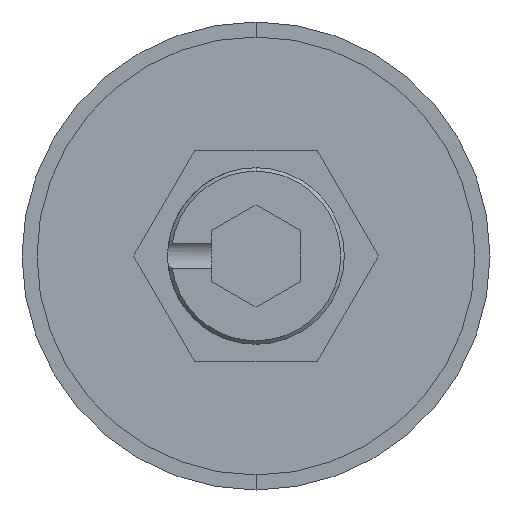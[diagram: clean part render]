
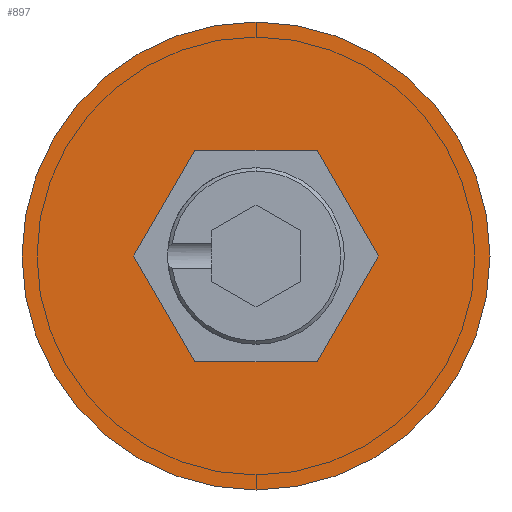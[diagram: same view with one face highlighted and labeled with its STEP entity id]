
A CAD part, front view. The second image highlights one B-rep face of the part: STEP entity #897.
In plain terms, the highlighted planar face has unit normal (0, -1, 0).
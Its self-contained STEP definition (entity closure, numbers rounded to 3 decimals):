
#96 = LINE ( 'NONE', #1774, #962 ) ;
#104 = ORIENTED_EDGE ( 'NONE', *, *, #1110, .F. ) ;
#110 = DIRECTION ( 'NONE',  ( 0., -1., 0. ) ) ;
#123 = ORIENTED_EDGE ( 'NONE', *, *, #2116, .F. ) ;
#134 = EDGE_LOOP ( 'NONE', ( #1092, #296 ) ) ;
#144 = VERTEX_POINT ( 'NONE', #2075 ) ;
#196 = EDGE_CURVE ( 'NONE', #1644, #1663, #2042, .T. ) ;
#206 = CARTESIAN_POINT ( 'NONE',  ( -3.464, 0., 6. ) ) ;
#244 = AXIS2_PLACEMENT_3D ( 'NONE', #1146, #1106, #609 ) ;
#282 = CARTESIAN_POINT ( 'NONE',  ( 0., 0., 0. ) ) ;
#285 = DIRECTION ( 'NONE',  ( 0., 0., -1. ) ) ;
#296 = ORIENTED_EDGE ( 'NONE', *, *, #1707, .T. ) ;
#315 = VERTEX_POINT ( 'NONE', #888 ) ;
#447 = CARTESIAN_POINT ( 'NONE',  ( 0., 0., 0. ) ) ;
#477 = DIRECTION ( 'NONE',  ( 0.5, 0., 0.866 ) ) ;
#517 = FACE_BOUND ( 'NONE', #1890, .T. ) ;
#580 = VERTEX_POINT ( 'NONE', #206 ) ;
#609 = DIRECTION ( 'NONE',  ( 0., 0., -1. ) ) ;
#697 = AXIS2_PLACEMENT_3D ( 'NONE', #447, #965, #285 ) ;
#701 = CARTESIAN_POINT ( 'NONE',  ( 0., 0., 13.25 ) ) ;
#772 = VECTOR ( 'NONE', #1083, 1000. ) ;
#790 = CIRCLE ( 'NONE', #1631, 13.25 ) ;
#794 = CARTESIAN_POINT ( 'NONE',  ( -3.464, 0., -6. ) ) ;
#803 = CARTESIAN_POINT ( 'NONE',  ( 3.464, 0., -6. ) ) ;
#822 = EDGE_CURVE ( 'NONE', #1790, #580, #2061, .T. ) ;
#871 = ORIENTED_EDGE ( 'NONE', *, *, #2014, .F. ) ;
#888 = CARTESIAN_POINT ( 'NONE',  ( 0., 0., -13.25 ) ) ;
#897 = ADVANCED_FACE ( 'NONE', ( #517, #1395 ), #909, .T. ) ;
#909 = PLANE ( 'NONE',  #244 ) ;
#929 = CARTESIAN_POINT ( 'NONE',  ( 6.928, 0., 0. ) ) ;
#941 = EDGE_CURVE ( 'NONE', #315, #1399, #1815, .T. ) ;
#956 = ORIENTED_EDGE ( 'NONE', *, *, #196, .F. ) ;
#962 = VECTOR ( 'NONE', #1214, 1000. ) ;
#965 = DIRECTION ( 'NONE',  ( 0., -1., 0. ) ) ;
#1038 = CARTESIAN_POINT ( 'NONE',  ( -3.464, 0., -6. ) ) ;
#1063 = LINE ( 'NONE', #1709, #1468 ) ;
#1083 = DIRECTION ( 'NONE',  ( -0.5, 0., 0.866 ) ) ;
#1092 = ORIENTED_EDGE ( 'NONE', *, *, #941, .T. ) ;
#1106 = DIRECTION ( 'NONE',  ( 0., -1., 0. ) ) ;
#1107 = DIRECTION ( 'NONE',  ( 1., 0., 0. ) ) ;
#1110 = EDGE_CURVE ( 'NONE', #144, #1790, #1548, .T. ) ;
#1146 = CARTESIAN_POINT ( 'NONE',  ( 0., 0., 0. ) ) ;
#1164 = VECTOR ( 'NONE', #1613, 1000. ) ;
#1192 = CARTESIAN_POINT ( 'NONE',  ( -6.928, 0., 0. ) ) ;
#1214 = DIRECTION ( 'NONE',  ( 0.5, 0., -0.866 ) ) ;
#1395 = FACE_OUTER_BOUND ( 'NONE', #134, .T. ) ;
#1399 = VERTEX_POINT ( 'NONE', #701 ) ;
#1412 = CARTESIAN_POINT ( 'NONE',  ( 3.464, 0., -6. ) ) ;
#1468 = VECTOR ( 'NONE', #1874, 1000. ) ;
#1514 = EDGE_CURVE ( 'NONE', #2081, #1644, #96, .T. ) ;
#1522 = ORIENTED_EDGE ( 'NONE', *, *, #1514, .F. ) ;
#1548 = LINE ( 'NONE', #929, #772 ) ;
#1613 = DIRECTION ( 'NONE',  ( -1., 0., 0. ) ) ;
#1620 = CARTESIAN_POINT ( 'NONE',  ( 3.464, 0., 6. ) ) ;
#1631 = AXIS2_PLACEMENT_3D ( 'NONE', #282, #110, #1658 ) ;
#1644 = VERTEX_POINT ( 'NONE', #794 ) ;
#1647 = VECTOR ( 'NONE', #1107, 1000. ) ;
#1658 = DIRECTION ( 'NONE',  ( 0., 0., -1. ) ) ;
#1663 = VERTEX_POINT ( 'NONE', #1412 ) ;
#1707 = EDGE_CURVE ( 'NONE', #1399, #315, #790, .T. ) ;
#1709 = CARTESIAN_POINT ( 'NONE',  ( -3.464, 0., 6. ) ) ;
#1774 = CARTESIAN_POINT ( 'NONE',  ( -6.928, 0., 0. ) ) ;
#1790 = VERTEX_POINT ( 'NONE', #1993 ) ;
#1815 = CIRCLE ( 'NONE', #697, 13.25 ) ;
#1874 = DIRECTION ( 'NONE',  ( -0.5, 0., -0.866 ) ) ;
#1890 = EDGE_LOOP ( 'NONE', ( #956, #1522, #123, #1958, #104, #871 ) ) ;
#1958 = ORIENTED_EDGE ( 'NONE', *, *, #822, .F. ) ;
#1993 = CARTESIAN_POINT ( 'NONE',  ( 3.464, 0., 6. ) ) ;
#2014 = EDGE_CURVE ( 'NONE', #1663, #144, #2121, .T. ) ;
#2025 = VECTOR ( 'NONE', #477, 1000. ) ;
#2042 = LINE ( 'NONE', #1038, #1647 ) ;
#2061 = LINE ( 'NONE', #1620, #1164 ) ;
#2075 = CARTESIAN_POINT ( 'NONE',  ( 6.928, 0., 0. ) ) ;
#2081 = VERTEX_POINT ( 'NONE', #1192 ) ;
#2116 = EDGE_CURVE ( 'NONE', #580, #2081, #1063, .T. ) ;
#2121 = LINE ( 'NONE', #803, #2025 ) ;
